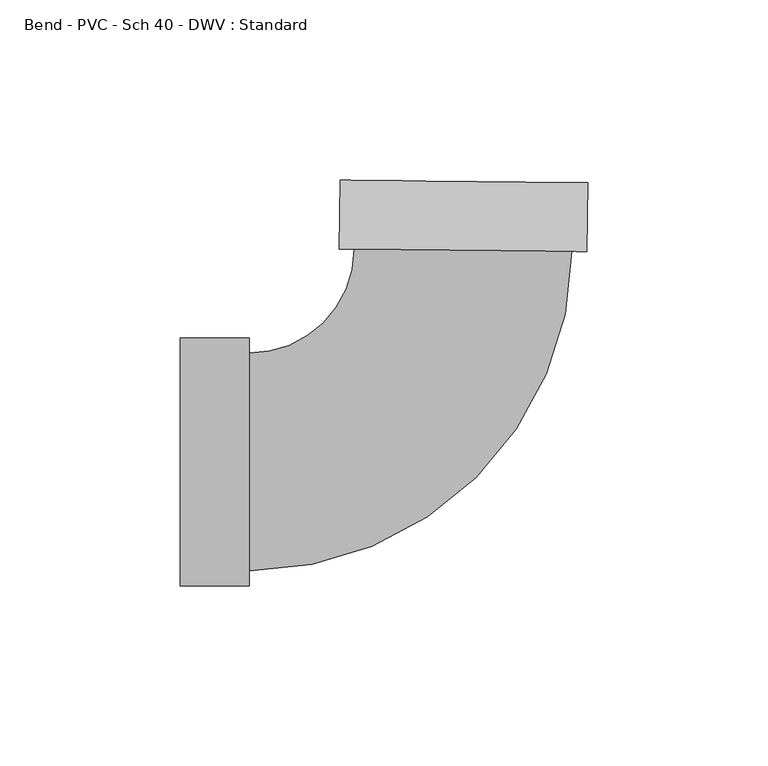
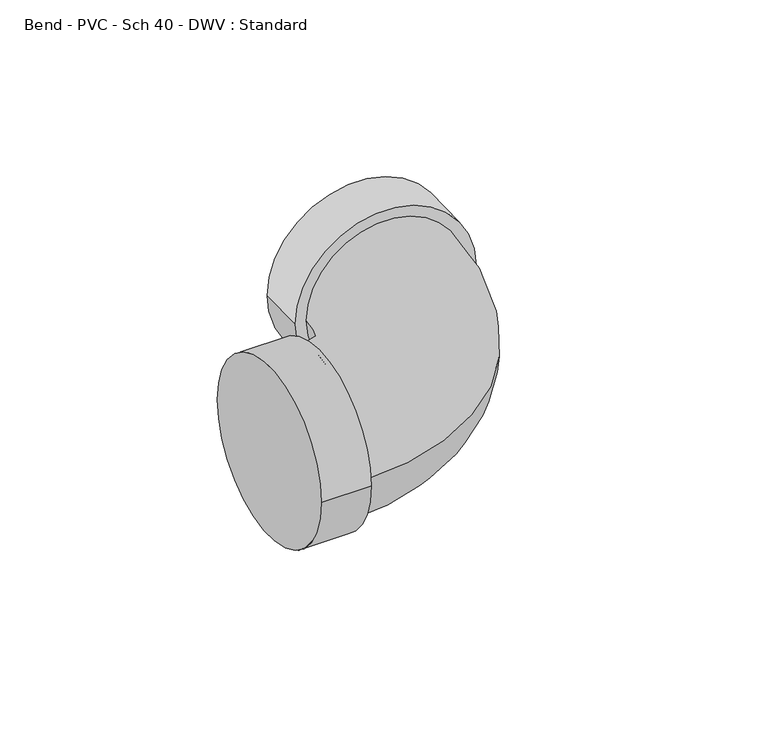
"""IFC4 building model written with IfcOpenShell, lengths in millimetres: pipe fitting geometry, Bend - PVC - Sch 40 - DWV : Standard."""

import ifcopenshell
import ifcopenshell.guid

model = None  # the IFC model being written
_history = None  # IfcOwnerHistory: only IFC2X3 demands one
_inside = {}  # id of a spatial element -> (the spatial element, [elements in it])
_under = {}  # id of a project, library or spatial element -> (it, [spatial elements below it])
_declared = {}  # id of a project -> (the project, [libraries it declares])
_typed = {}  # id of a type object -> (the type object, [elements of that type])
_made_of = {}  # id of a material, layer set ... -> (it, [elements and type objects made of it])


def new_model(schema):
    """Start an empty IFC model of exactly this schema.

    Asked for "IFC4X3", IfcOpenShell would pick the latest addendum, in which some entities
    have other attributes; the version numbers below select the first issue.
    IFC2X3 requires an IfcOwnerHistory on every rooted entity: one is made here for all.
    """
    global model, _history
    if schema == "IFC4X3":
        model = ifcopenshell.file(schema_version=(4, 3, 0, 0))
    else:
        model = ifcopenshell.file(schema=schema)
    _inside.clear()
    _under.clear()
    _declared.clear()
    _typed.clear()
    _made_of.clear()
    _history = None
    if model.schema == "IFC2X3":
        org = make("IfcOrganization", Name="unknown")
        user = make(
            "IfcPersonAndOrganization",
            ThePerson=make("IfcPerson", FamilyName="unknown"),
            TheOrganization=org,
        )
        app = make(
            "IfcApplication",
            ApplicationDeveloper=org,
            Version="unknown",
            ApplicationFullName="unknown",
            ApplicationIdentifier="unknown",
        )
        _history = make(
            "IfcOwnerHistory",
            OwningUser=user,
            OwningApplication=app,
            ChangeAction="ADDED",
            CreationDate=0,
        )
    return model


def make(cls, **values):
    """One entity of the class cls with the attributes given. An attribute that is None is left unset."""
    return model.create_entity(
        cls, **{name: value for name, value in values.items() if value is not None}
    )


def rooted(cls, **values):
    """An entity with a GlobalId (a new one), such as an element, a storey or a relation."""
    return make(cls, GlobalId=ifcopenshell.guid.new(), OwnerHistory=_history, **values)


def si_unit(unit_type, name, prefix=None):
    """IfcSIUnit, for example si_unit("LENGTHUNIT", "METRE", prefix="MILLI")."""
    return make("IfcSIUnit", UnitType=unit_type, Prefix=prefix, Name=name)


def assignment(units):
    """IfcUnitAssignment: the units of a project."""
    return None if units is None else make("IfcUnitAssignment", Units=units)


def point(xyz):
    """IfcCartesianPoint."""
    return None if xyz is None else make("IfcCartesianPoint", Coordinates=xyz)


def direction(xyz):
    """IfcDirection."""
    return None if xyz is None else make("IfcDirection", DirectionRatios=xyz)


def frame(location, z_axis=None, x_axis=None):
    """IfcAxis2Placement3D, a coordinate frame: its origin and axes. An axis left out is left unset."""
    return make(
        "IfcAxis2Placement3D",
        Location=point(location),
        Axis=direction(z_axis),
        RefDirection=direction(x_axis),
    )


def origin():
    """The frame at (0, 0, 0) with its axes left unset."""
    return frame((0.0, 0.0, 0.0))


def place(relative_to, where):
    """IfcLocalPlacement: puts the frame where relative to a parent placement (None: the world)."""
    return make(
        "IfcLocalPlacement", PlacementRelTo=relative_to, RelativePlacement=where
    )


def context(
    kind, dimensions, precision=None, world=None, true_north=None, identifier=None
):
    """IfcGeometricRepresentationContext, for example the 3D "Model" context."""
    return make(
        "IfcGeometricRepresentationContext",
        ContextIdentifier=identifier,
        ContextType=kind,
        CoordinateSpaceDimension=dimensions,
        Precision=precision,
        WorldCoordinateSystem=world,
        TrueNorth=true_north,
    )


def project(units=None, contexts=None):
    """IfcProject with its units and contexts."""
    return rooted(
        "IfcProject",
        Name="project",
        RepresentationContexts=contexts,
        UnitsInContext=assignment(units),
    )


def spatial(cls, under=None, at=None, **own):
    """A site, building, storey or space (cls), placed at a placement, below another one or the project."""
    s = rooted(cls, ObjectPlacement=at, **own)
    if under is not None:
        _under.setdefault(under.id(), (under, []))[1].append(s)
    return s


def circle_curve(where, radius):
    """IfcCircle in the frame where."""
    return make("IfcCircle", Position=where, Radius=radius)


def ellipse_curve(where, semi_axis1, semi_axis2):
    """IfcEllipse in the frame where."""
    return make(
        "IfcEllipse", Position=where, SemiAxis1=semi_axis1, SemiAxis2=semi_axis2
    )


def trimmed(basis, trim1, trim2, sense, master):
    """IfcTrimmedCurve: the piece of a basis curve between two trims."""
    return make(
        "IfcTrimmedCurve",
        BasisCurve=basis,
        Trim1=trim1,
        Trim2=trim2,
        SenseAgreement=sense,
        MasterRepresentation=master,
    )


def shape(context_of_items, identifier, shape_type, items):
    """IfcShapeRepresentation: the items that make up one representation, for example the "Body"."""
    return make(
        "IfcShapeRepresentation",
        ContextOfItems=context_of_items,
        RepresentationIdentifier=identifier,
        RepresentationType=shape_type,
        Items=items,
    )


def source(mapping_origin, context_of_items, identifier, shape_type, items):
    """IfcRepresentationMap: a shape defined once, which mapped items show again and again."""
    return make(
        "IfcRepresentationMap",
        MappingOrigin=mapping_origin,
        MappedRepresentation=shape(context_of_items, identifier, shape_type, items),
    )


def transform(
    local_origin,
    x_axis=None,
    y_axis=None,
    z_axis=None,
    scale=None,
    scale2=None,
    scale3=None,
    uniform=True,
):
    """IfcCartesianTransformationOperator3D, or its non-uniform kind. x_axis, y_axis, z_axis: its Axis1, 2, 3."""
    if uniform:
        return make(
            "IfcCartesianTransformationOperator3D",
            Axis1=direction(x_axis),
            Axis2=direction(y_axis),
            LocalOrigin=point(local_origin),
            Scale=scale,
            Axis3=direction(z_axis),
        )
    return make(
        "IfcCartesianTransformationOperator3DnonUniform",
        Axis1=direction(x_axis),
        Axis2=direction(y_axis),
        LocalOrigin=point(local_origin),
        Scale=scale,
        Axis3=direction(z_axis),
        Scale2=scale2,
        Scale3=scale3,
    )


def mapped(mapping_source, mapping_target):
    """IfcMappedItem: shows the shape of a source again, moved by a transform."""
    return make(
        "IfcMappedItem", MappingSource=mapping_source, MappingTarget=mapping_target
    )


def made_of(thing, what):
    """Note that an element or type object is made of a material, layer set ...; save() writes the relation."""
    if what is not None:
        _made_of.setdefault(what.id(), (what, []))[1].append(thing)
    return thing


def element(
    cls,
    number,
    at=None,
    inside=None,
    cuts=None,
    type_object=None,
    material=None,
    context=None,
    identifier="Body",
    shape_type=None,
    held_by="IfcProductDefinitionShape",
    body=None,
    shapes=None,
    **own,
):
    """One element of the class cls, such as IfcWall. Its Tag is "e" and its number.

    at: its placement. inside: the storey or other place that contains it. cuts: it is an
    opening in that element (IfcRelVoidsElement). A single representation is given by context,
    identifier, shape_type and body (its items); several are given by shapes. held_by: the class
    of the entity that holds the representations. save() writes the other relations.
    """
    e = rooted(cls, Tag="e%d" % number, ObjectPlacement=at, **own)
    if body is not None:
        shapes = [shape(context, identifier, shape_type, body)]
    if shapes is not None:
        e.Representation = make(held_by, Representations=shapes)
    if inside is not None:
        _inside.setdefault(inside.id(), (inside, []))[1].append(e)
    if cuts is not None:
        rooted(
            "IfcRelVoidsElement", RelatingBuildingElement=cuts, RelatedOpeningElement=e
        )
    if type_object is not None:
        _typed.setdefault(type_object.id(), (type_object, []))[1].append(e)
    return made_of(e, material)


def aggregate(whole, parts):
    """IfcRelAggregates: a whole, such as a stair, and the parts it consists of."""
    return rooted("IfcRelAggregates", RelatingObject=whole, RelatedObjects=parts)


def save(model, path):
    """Write the relations noted so far, then the file.

    IfcRelAggregates (storeys below a building ...), IfcRelContainedInSpatialStructure (elements
    in a storey), IfcRelDefinesByType, IfcRelAssociatesMaterial and IfcRelDeclares: one each for
    every whole, place, type object, material and project.
    """
    for whole, parts in _under.values():
        aggregate(whole, parts)
    for where, things in _inside.values():
        rooted(
            "IfcRelContainedInSpatialStructure",
            RelatedElements=things,
            RelatingStructure=where,
        )
    for kind, things in _typed.values():
        rooted("IfcRelDefinesByType", RelatedObjects=things, RelatingType=kind)
    for what, things in _made_of.values():
        rooted("IfcRelAssociatesMaterial", RelatedObjects=things, RelatingMaterial=what)
    for by, libraries in _declared.values():
        rooted("IfcRelDeclares", RelatingContext=by, RelatedDefinitions=libraries)
    model.write(path)


def plane_surface(at):
    """IfcPlane: the flat surface through the origin of the frame at, square to its z axis."""
    return make("IfcPlane", Position=at)


def cylinder_surface(at, radius):
    """IfcCylindricalSurface: all points at the distance radius from the z axis of the frame at."""
    return make("IfcCylindricalSurface", Position=at, Radius=radius)


def revolved_surface(curve, axis_point, axis_direction):
    """IfcSurfaceOfRevolution: the curve turned about the line through axis_point along axis_direction."""
    return make(
        "IfcSurfaceOfRevolution",
        SweptCurve=make("IfcArbitraryOpenProfileDef", ProfileType="CURVE", Curve=curve),
        AxisPosition=make("IfcAxis1Placement", Location=point(axis_point), Axis=direction(axis_direction)),
    )


def advanced_brep(points, edges, surfaces, faces):
    """IfcAdvancedBrep: a solid bounded by faces that lie on surfaces and meet in shared edges.

    An edge is (start, end): straight between two places in points (the first is 0);
    or (start, end, curve); or (start, end, curve, False) where it runs against its curve.
    A face is (place in surfaces, loops), or (place, loops, False) where it looks against
    its surface's normal. A loop lists edges by number (the first is 1), with a minus sign
    where the edge is run from its end to its start. The first loop is the outer one.
    """
    corners = [point(p) for p in points]
    vertices = [make("IfcVertexPoint", VertexGeometry=c) for c in corners]
    made = []
    for start, end, *more in edges:
        made.append(
            make(
                "IfcEdgeCurve",
                EdgeStart=vertices[start],
                EdgeEnd=vertices[end],
                EdgeGeometry=more[0] if more else make("IfcPolyline", Points=[corners[start], corners[end]]),
                SameSense=more[1] if len(more) > 1 else True,
            )
        )
    hull = []
    for where, loops, *sense in faces:
        bounds = []
        for j, loop in enumerate(loops):
            ring = [make("IfcOrientedEdge", EdgeElement=made[abs(k) - 1], Orientation=k > 0) for k in loop]
            bounds.append(
                make(
                    "IfcFaceOuterBound" if j == 0 else "IfcFaceBound",
                    Bound=make("IfcEdgeLoop", EdgeList=ring),
                    Orientation=True,
                )
            )
        hull.append(make("IfcAdvancedFace", Bounds=bounds, FaceSurface=surfaces[where], SameSense=sense[0] if sense else True))
    return make("IfcAdvancedBrep", Outer=make("IfcClosedShell", CfsFaces=hull))


def bend_pvc_sch_40_dwv_standard_e287c2f6(model_context):
    return source(origin(), model_context, "Body", "AdvancedBrep", [
        advanced_brep(
        [(-77.8002, -34.3154, 0.0), (-77.8002, 34.3154, 0.0), (-58.7502, -34.3154, 0.0), (-58.7502, 34.3154, 0.0), (-58.7502, -30.1625, 0.0), (-58.7502, 30.1625, 0.0), (-29.5489157, 59.0611885, 0.0), (30.7728118, 58.4328372, 0.0), (34.9254865, 58.3895802, 0.0), (-33.7015904, 59.1044455, 0.0), (35.1239132, 77.4385467, 0.0), (-33.5031636, 78.1534121, 0.0)],
        [
            (0, 1, circle_curve(frame((-77.8002, 0.0, 0.0), z_axis=(-1.0, 0.0, 0.0), x_axis=(0.0, 1.0, 0.0)), 34.3154)),
            (1, 0, circle_curve(frame((-77.8002, 0.0, 0.0), z_axis=(-1.0, 0.0, 0.0), x_axis=(0.0, 1.0, 0.0)), 34.3154)),
            (2, 3, circle_curve(frame((-58.7502, 0.0, 0.0), z_axis=(1.0, 0.0, 0.0), x_axis=(0.0, 1.0, 0.0)), 34.3154)),
            (3, 2, circle_curve(frame((-58.7502, 0.0, 0.0), z_axis=(1.0, 0.0, 0.0), x_axis=(0.0, 1.0, 0.0)), 34.3154)),
            (4, 5, circle_curve(frame((-58.7502, 0.0, 0.0), z_axis=(-1.0, 0.0, 0.0), x_axis=(0.0, 1.0, 0.0)), 30.1625)),
            (5, 4, circle_curve(frame((-58.7502, 0.0, 0.0), z_axis=(-1.0, 0.0, 0.0), x_axis=(0.0, 1.0, 0.0)), 30.1625)),
            (0, 2),
            (3, 1),
            (6, 5, circle_curve(frame((-58.7502, 59.3653686, 0.0), z_axis=(0.0, 0.0, -1.0), x_axis=(0.0, -1.0, 0.0)), 29.2028686)),
            (4, 7, circle_curve(frame((-58.7502, 59.3653686, 0.0), z_axis=(0.0, 0.0, 1.0), x_axis=(0.0, -1.0, 0.0)), 89.5278686)),
            (7, 6, circle_curve(frame((0.6119481, 58.7470129, 0.0), z_axis=(-0.010416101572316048, -0.9999457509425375, 0.0), x_axis=(-0.9999457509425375, 0.010416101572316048, 0.0)), 30.1625)),
            (6, 7, circle_curve(frame((0.6119481, 58.7470129, 0.0), z_axis=(-0.010416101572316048, -0.9999457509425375, 0.0), x_axis=(-0.9999457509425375, 0.010416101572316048, 0.0)), 30.1625)),
            (8, 9, circle_curve(frame((0.6119481, 58.7470129, 0.0), z_axis=(-0.010416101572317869, -0.9999457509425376, 0.0), x_axis=(-0.9999457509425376, 0.010416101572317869, 0.0)), 34.3154)),
            (9, 8, circle_curve(frame((0.6119481, 58.7470129, 0.0), z_axis=(-0.010416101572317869, -0.9999457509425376, 0.0), x_axis=(-0.9999457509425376, 0.010416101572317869, 0.0)), 34.3154)),
            (10, 11, circle_curve(frame((0.8103748, 77.7959794, 0.0), z_axis=(0.010416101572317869, 0.9999457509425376, 0.0), x_axis=(-0.9999457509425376, 0.010416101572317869, 0.0)), 34.3154)),
            (11, 10, circle_curve(frame((0.8103748, 77.7959794, 0.0), z_axis=(0.010416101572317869, 0.9999457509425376, 0.0), x_axis=(-0.9999457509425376, 0.010416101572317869, 0.0)), 34.3154)),
            (8, 10),
            (11, 9),
        ],
        [
            plane_surface(frame((-77.8002, 0.0, 0.0), z_axis=(-1.0, 0.0, 0.0), x_axis=(0.0, 0.0, 1.0))),
            plane_surface(frame((-58.7502, 0.0, 0.0), z_axis=(1.0, 0.0, 0.0), x_axis=(0.0, 0.0, 1.0))),
            cylinder_surface(frame((-77.8002, 0.0, 0.0), z_axis=(-1.0, 0.0, 0.0), x_axis=(0.0, 1.0, 0.0)), 34.3154),
            revolved_surface(trimmed(ellipse_curve(frame((-58.7502, 0.0, 0.0), z_axis=(-1.0, 0.0, 0.0), x_axis=(0.0, 1.0, 0.0)), 30.1625, 30.1625), [point((-58.7502, -30.1625, 0.0))], [point((-58.7502, 30.1625, 0.0))], True, "CARTESIAN"), (-58.7502, 59.3653686, 0.0), (0.0, 0.0, 1.0)),
            revolved_surface(trimmed(ellipse_curve(frame((-58.7502, 0.0, 0.0), z_axis=(-1.0, 0.0, 0.0), x_axis=(0.0, 1.0, 0.0)), 30.1625, 30.1625), [point((-58.7502, 30.1625, 0.0))], [point((-58.7502, -30.1625, 0.0))], True, "CARTESIAN"), (-58.7502, 59.3653686, 0.0), (0.0, 0.0, 1.0)),
            plane_surface(frame((0.6119481, 58.7470129, 0.0), z_axis=(-0.010416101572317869, -0.9999457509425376, 0.0), x_axis=(0.0, 0.0, 1.0))),
            plane_surface(frame((0.8103748, 77.7959794, 0.0), z_axis=(0.010416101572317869, 0.9999457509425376, 0.0), x_axis=(0.0, 0.0, 1.0))),
            cylinder_surface(frame((0.6119481, 58.7470129, 0.0), z_axis=(-0.010416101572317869, -0.9999457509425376, 0.0), x_axis=(-0.9999457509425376, 0.010416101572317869, 0.0)), 34.3154),
        ],
        [
            (0, [[1, 2]]),
            (1, [[3, 4], [5, 6]]),
            (2, [[-1, 7, -4, 8]]),
            (2, [[-2, -8, -3, -7]]),
            (3, [[9, -5, 10, 11]]),
            (4, [[-9, 12, -10, -6]]),
            (5, [[13, 14], [-11, -12]]),
            (6, [[15, 16]]),
            (7, [[-13, 17, -16, 18]]),
            (7, [[-14, -18, -15, -17]]),
        ],
    ),
    ])


if __name__ == "__main__":
    model = new_model("IFC4")
    model_context = context("Model", 3, world=origin())
    ifc_project = project(units=[si_unit("LENGTHUNIT", "METRE", prefix="MILLI")], contexts=[model_context])
    site = spatial("IfcSite", under=ifc_project)
    building = spatial("IfcBuilding", under=site)
    placement = place(None, origin())
    bend_pvc_sch_40_dwv_standard_shape = bend_pvc_sch_40_dwv_standard_e287c2f6(model_context)
    element("IfcPipeFitting", 1, ObjectType="Bend - PVC - Sch 40 - DWV : Standard", at=placement, inside=building, context=model_context, shape_type="MappedRepresentation", body=[
        mapped(bend_pvc_sch_40_dwv_standard_shape, transform((0.0, 0.0, 0.0), x_axis=(1.0, 0.0, 0.0), y_axis=(0.0, 1.0, 0.0), z_axis=(0.0, 0.0, 1.0))),
    ])
    save(model, "model.ifc")
